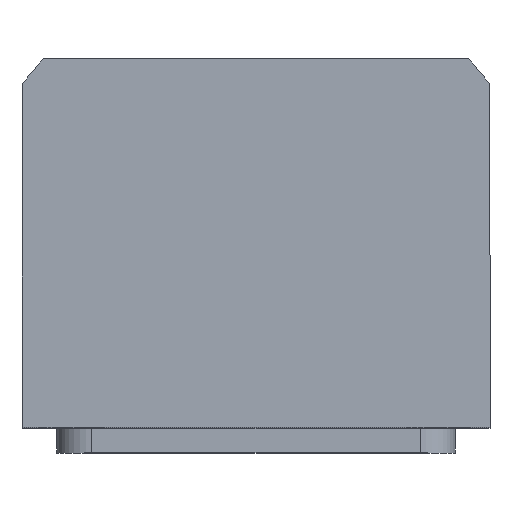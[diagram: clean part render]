
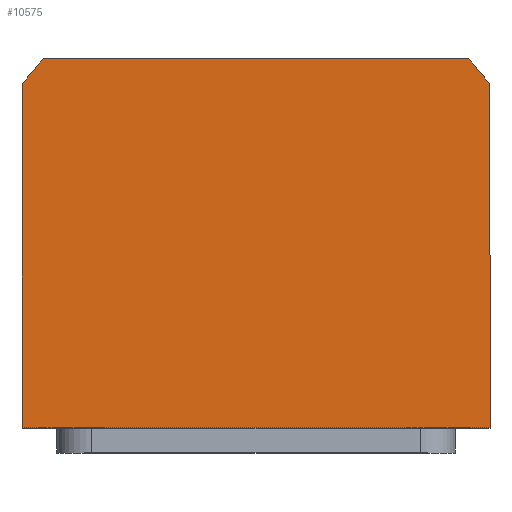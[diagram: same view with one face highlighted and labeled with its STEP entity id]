
A CAD part, top view. The second image highlights one B-rep face of the part: STEP entity #10575.
In plain terms, the highlighted planar face has unit normal (0, 0, 1).
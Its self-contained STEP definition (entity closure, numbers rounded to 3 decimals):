
#931 = DIRECTION ( 'NONE',  ( 0., 0., 1. ) ) ;
#1081 = VERTEX_POINT ( 'NONE', #3751 ) ;
#1268 = VERTEX_POINT ( 'NONE', #12700 ) ;
#1287 = AXIS2_PLACEMENT_3D ( 'NONE', #13691, #931, #7800 ) ;
#1436 = DIRECTION ( 'NONE',  ( 1., 0., 0. ) ) ;
#2313 = DIRECTION ( 'NONE',  ( -1., 0., 0. ) ) ;
#2483 = EDGE_CURVE ( 'NONE', #13276, #8704, #13807, .T. ) ;
#2526 = DIRECTION ( 'NONE',  ( 0., 0., 1. ) ) ;
#2619 = EDGE_CURVE ( 'NONE', #13254, #1081, #5203, .T. ) ;
#2620 = CARTESIAN_POINT ( 'NONE',  ( 0., 0., 67.5 ) ) ;
#2716 = EDGE_CURVE ( 'NONE', #8704, #1268, #13727, .T. ) ;
#3056 = CIRCLE ( 'NONE', #12326, 58.5 ) ;
#3078 = VECTOR ( 'NONE', #7222, 1000. ) ;
#3199 = LINE ( 'NONE', #10114, #5403 ) ;
#3237 = ORIENTED_EDGE ( 'NONE', *, *, #2716, .T. ) ;
#3601 = FACE_OUTER_BOUND ( 'NONE', #9754, .T. ) ;
#3648 = CARTESIAN_POINT ( 'NONE',  ( 47., -34., 67.5 ) ) ;
#3751 = CARTESIAN_POINT ( 'NONE',  ( -47., -34., 67.5 ) ) ;
#4374 = VECTOR ( 'NONE', #5839, 1000. ) ;
#4621 = DIRECTION ( 'NONE',  ( 1., 0., 0. ) ) ;
#5203 = LINE ( 'NONE', #6937, #4374 ) ;
#5235 = EDGE_CURVE ( 'NONE', #12657, #13276, #8531, .T. ) ;
#5403 = VECTOR ( 'NONE', #12439, 1000. ) ;
#5831 = AXIS2_PLACEMENT_3D ( 'NONE', #2620, #2526, #1436 ) ;
#5839 = DIRECTION ( 'NONE',  ( 0., -1., 0. ) ) ;
#6937 = CARTESIAN_POINT ( 'NONE',  ( -47., -34., 67.5 ) ) ;
#7222 = DIRECTION ( 'NONE',  ( 0., 1., 0. ) ) ;
#7800 = DIRECTION ( 'NONE',  ( 1., 0., 0. ) ) ;
#8160 = ORIENTED_EDGE ( 'NONE', *, *, #5235, .T. ) ;
#8531 = LINE ( 'NONE', #11901, #3078 ) ;
#8704 = VERTEX_POINT ( 'NONE', #10725 ) ;
#8805 = ORIENTED_EDGE ( 'NONE', *, *, #2619, .T. ) ;
#9240 = CARTESIAN_POINT ( 'NONE',  ( -42.688, 40., 67.5 ) ) ;
#9754 = EDGE_LOOP ( 'NONE', ( #14524, #8160, #10751, #3237, #11960, #8805 ) ) ;
#9992 = CARTESIAN_POINT ( 'NONE',  ( -47., 34.832, 67.5 ) ) ;
#10114 = CARTESIAN_POINT ( 'NONE',  ( 47., -34., 67.5 ) ) ;
#10575 = ADVANCED_FACE ( 'NONE', ( #3601 ), #10802, .T. ) ;
#10612 = DIRECTION ( 'NONE',  ( 0., 0., 1. ) ) ;
#10725 = CARTESIAN_POINT ( 'NONE',  ( 42.688, 40., 67.5 ) ) ;
#10751 = ORIENTED_EDGE ( 'NONE', *, *, #2483, .T. ) ;
#10802 = PLANE ( 'NONE',  #5831 ) ;
#11477 = EDGE_CURVE ( 'NONE', #1268, #13254, #3056, .T. ) ;
#11736 = CARTESIAN_POINT ( 'NONE',  ( 0., 0., 67.5 ) ) ;
#11901 = CARTESIAN_POINT ( 'NONE',  ( 47., 34.832, 67.5 ) ) ;
#11960 = ORIENTED_EDGE ( 'NONE', *, *, #11477, .T. ) ;
#12326 = AXIS2_PLACEMENT_3D ( 'NONE', #11736, #10612, #4621 ) ;
#12413 = CARTESIAN_POINT ( 'NONE',  ( 47., 34.832, 67.5 ) ) ;
#12439 = DIRECTION ( 'NONE',  ( 1., 0., 0. ) ) ;
#12657 = VERTEX_POINT ( 'NONE', #3648 ) ;
#12700 = CARTESIAN_POINT ( 'NONE',  ( -42.688, 40., 67.5 ) ) ;
#12805 = VECTOR ( 'NONE', #2313, 1000. ) ;
#13254 = VERTEX_POINT ( 'NONE', #9992 ) ;
#13276 = VERTEX_POINT ( 'NONE', #12413 ) ;
#13691 = CARTESIAN_POINT ( 'NONE',  ( 0., 0., 67.5 ) ) ;
#13727 = LINE ( 'NONE', #9240, #12805 ) ;
#13807 = CIRCLE ( 'NONE', #1287, 58.5 ) ;
#14524 = ORIENTED_EDGE ( 'NONE', *, *, #14900, .T. ) ;
#14900 = EDGE_CURVE ( 'NONE', #1081, #12657, #3199, .T. ) ;
